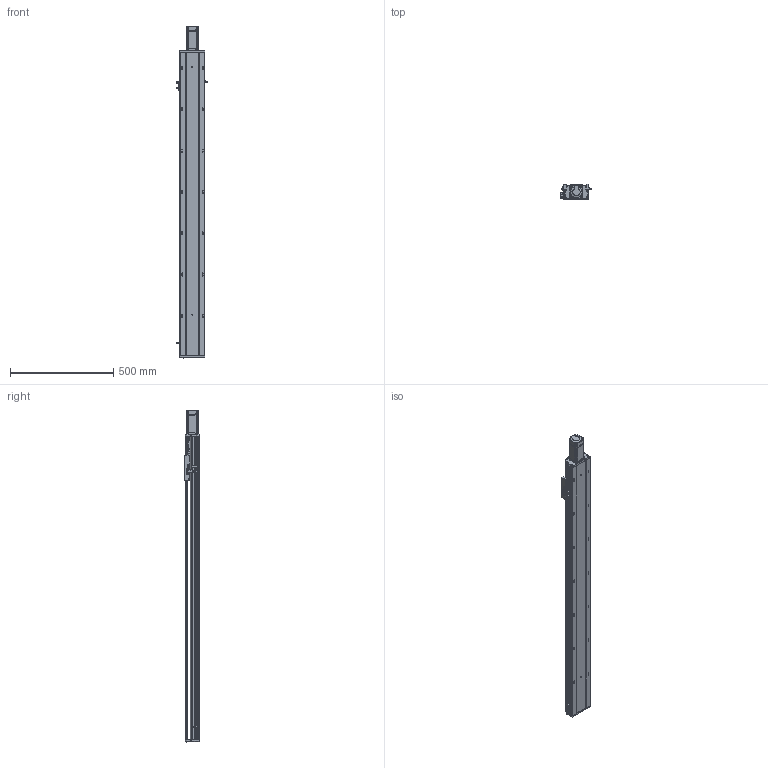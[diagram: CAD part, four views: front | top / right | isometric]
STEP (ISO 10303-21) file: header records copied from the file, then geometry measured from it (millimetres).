
FILE_DESCRIPTION (( 'STEP AP203' ), '1' );
FILE_NAME ('RYK120-L1610-S1200-M40-C3-MK.STEP', '2026-03-09T07:09:54', ( '' ), ( '' ), 'SwSTEP 2.0', 'SolidWorks 2016', '' );
FILE_SCHEMA (( 'CONFIG_CONTROL_DESIGN' ));
Length unit declared in the file: millimetre
Products named in the file (17): RYK170-薊粣ん芵隴裔啣; 滅袉蝶18-10; 侂狟400W侜督萇儂; RY120外置感应片(140共用）; RY120-16螺母油路-集中注油组合; CB╱T 3762-1996[锥形润滑油嘴1-ZM10×1]_1-ZM10×1; RYK120-L1610-S1200-M40-C3-MK; RY120电机端支撑座-压铸加工-M5; RY120綴裔啣; 滅袉蝶18-24; RYK120-300-MK-菁釱-啞_1200; 15; 2.10.1.C521-V1.0RY120臏賑輸16蹟譫-啞-JZZY-NRL-L1899; 覜茼ん672; RY120QGB-1.8; 44-49-12-14; RYK120-300-MK-奻裔啣-啞_1200
Assembly tree (21 placements, depth 3):
  RYK120-L1610-S1200-M40-C3-MK
    RYK120-300-MK-菁釱-啞_1200
    RYK120-300-MK-奻裔啣-啞_1200
    RY120綴裔啣
    滅袉蝶18-24  x2
    滅袉蝶18-10  x2
    覜茼ん672  x3
    RY120外置感应片(140共用）
    RY120QGB-1.8
    RY120-16螺母油路-集中注油组合
      2.10.1.C521-V1.0RY120臏賑輸16蹟譫-啞-JZZY-NRL-L1899
      CB╱T 3762-1996[锥形润滑油嘴1-ZM10×1]_1-ZM10×1  x2
    RY120电机端支撑座-压铸加工-M5
    RYK170-薊粣ん芵隴裔啣
    44-49-12-14
    侂狟400W侜督萇儂
      15
Bounding box: 145.7 x 73 x 1608.5 mm (x, y, z)
Volume: 4141316.6 mm3; surface area: 1486693.5 mm2
Topology: 23 solids, 23 shells, 2658 faces, 7362 edges, 4685 vertices
Faces by surface type: plane 1201, cylinder 1035, cone 295, bspline 127
Entity records: 88090 total; most frequent: CARTESIAN_POINT 25214, ORIENTED_EDGE 13168, DIRECTION 12155, EDGE_CURVE 6584, VERTEX_POINT 4297, AXIS2_PLACEMENT_3D 4190, LINE 3775, VECTOR 3775
